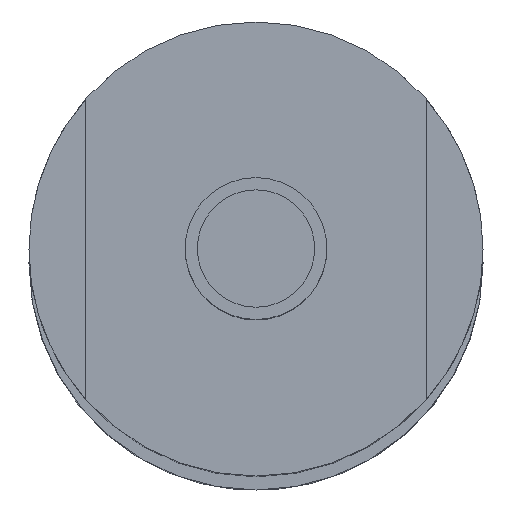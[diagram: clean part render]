
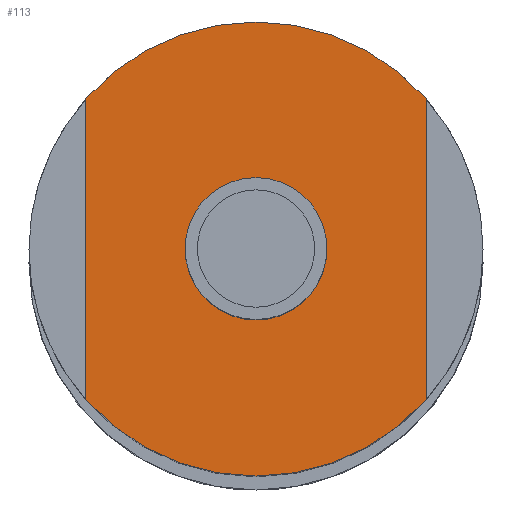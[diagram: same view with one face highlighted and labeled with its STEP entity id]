
A CAD part, top view. The second image highlights one B-rep face of the part: STEP entity #113.
In plain terms, the highlighted planar face has unit normal (0, 0, 1).
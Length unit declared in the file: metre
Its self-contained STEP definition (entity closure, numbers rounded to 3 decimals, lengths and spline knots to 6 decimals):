
#113=ADVANCED_FACE('17:304',(#222,#223),#224,.T.);
#222=FACE_BOUND('',#340,.T.);
#223=FACE_OUTER_BOUND('',#341,.T.);
#224=PLANE('',#342);
#340=EDGE_LOOP('',(#550,#551));
#341=EDGE_LOOP('',(#552,#553,#554,#555,#556,#557));
#342=AXIS2_PLACEMENT_3D('',#558,#559,#560);
#550=ORIENTED_EDGE('',*,*,#643,.T.);
#551=ORIENTED_EDGE('',*,*,#714,.T.);
#552=ORIENTED_EDGE('',*,*,#716,.F.);
#553=ORIENTED_EDGE('',*,*,#653,.F.);
#554=ORIENTED_EDGE('',*,*,#652,.F.);
#555=ORIENTED_EDGE('',*,*,#701,.T.);
#556=ORIENTED_EDGE('',*,*,#708,.F.);
#557=ORIENTED_EDGE('',*,*,#707,.F.);
#558=CARTESIAN_POINT('',(0.,0.,0.209));
#559=DIRECTION('',(0.0,0.0,1.0));
#560=DIRECTION('',(1.0,0.0,0.0));
#643=EDGE_CURVE('19:2123',#759,#756,#760,.F.);
#652=EDGE_CURVE('17:354',#774,#776,#777,.F.);
#653=EDGE_CURVE('17:345',#776,#778,#779,.F.);
#701=EDGE_CURVE('17:844',#774,#849,#850,.T.);
#707=EDGE_CURVE('17:351',#857,#859,#860,.F.);
#708=EDGE_CURVE('17:342',#859,#849,#861,.F.);
#714=EDGE_CURVE('',#756,#759,#867,.F.);
#716=EDGE_CURVE('17:790',#778,#857,#869,.F.);
#756=VERTEX_POINT('',#933);
#759=VERTEX_POINT('',#937);
#760=CIRCLE('',#938,0.0025);
#774=VERTEX_POINT('',#955);
#776=VERTEX_POINT('',#958);
#777=CIRCLE('',#959,0.008);
#778=VERTEX_POINT('',#960);
#779=CIRCLE('',#961,0.008);
#849=VERTEX_POINT('',#1046);
#850=LINE('',#1047,#1048);
#857=VERTEX_POINT('',#1057);
#859=VERTEX_POINT('',#1060);
#860=CIRCLE('',#1061,0.008);
#861=CIRCLE('',#1062,0.008);
#867=CIRCLE('',#1068,0.0025);
#869=LINE('',#1070,#1071);
#933=CARTESIAN_POINT('',(0.00239,0.000133,0.209));
#937=CARTESIAN_POINT('',(-0.00261,0.000133,0.209));
#938=AXIS2_PLACEMENT_3D('',#1144,#1145,#1146);
#955=CARTESIAN_POINT('',(-0.00611,0.005425,0.209));
#958=CARTESIAN_POINT('',(-0.00011,0.008133,0.209));
#959=AXIS2_PLACEMENT_3D('',#1160,#1161,#1162);
#960=CARTESIAN_POINT('',(0.00589,0.005425,0.209));
#961=AXIS2_PLACEMENT_3D('',#1163,#1164,#1165);
#1046=CARTESIAN_POINT('',(-0.00611,-0.005158,0.209));
#1047=CARTESIAN_POINT('',(-0.00611,0.000067,0.209));
#1048=VECTOR('',#1235,1.0);
#1057=CARTESIAN_POINT('',(0.00589,-0.005158,0.209));
#1060=CARTESIAN_POINT('',(-0.00011,-0.007867,0.209));
#1061=AXIS2_PLACEMENT_3D('',#1242,#1243,#1244);
#1062=AXIS2_PLACEMENT_3D('',#1245,#1246,#1247);
#1068=AXIS2_PLACEMENT_3D('',#1257,#1258,#1259);
#1070=CARTESIAN_POINT('',(0.00589,0.000067,0.209));
#1071=VECTOR('',#1260,1.0);
#1144=CARTESIAN_POINT('',(-0.00011,0.000133,0.209));
#1145=DIRECTION('',(0.0,0.0,1.0));
#1146=DIRECTION('',(1.0,0.0,-0.0));
#1160=CARTESIAN_POINT('',(-0.00011,0.000133,0.209));
#1161=DIRECTION('',(0.0,0.0,1.0));
#1162=DIRECTION('',(1.0,0.0,0.0));
#1163=CARTESIAN_POINT('',(-0.00011,0.000133,0.209));
#1164=DIRECTION('',(0.0,0.0,1.0));
#1165=DIRECTION('',(1.0,0.0,0.0));
#1235=DIRECTION('',(0.,-1.0,0.0));
#1242=CARTESIAN_POINT('',(-0.00011,0.000133,0.209));
#1243=DIRECTION('',(0.0,0.0,1.0));
#1244=DIRECTION('',(1.0,0.0,0.0));
#1245=CARTESIAN_POINT('',(-0.00011,0.000133,0.209));
#1246=DIRECTION('',(0.0,0.0,1.0));
#1247=DIRECTION('',(1.0,0.0,0.0));
#1257=CARTESIAN_POINT('',(-0.00011,0.000133,0.209));
#1258=DIRECTION('',(0.0,0.0,1.0));
#1259=DIRECTION('',(1.0,0.0,-0.0));
#1260=DIRECTION('',(0.,1.0,0.0));
